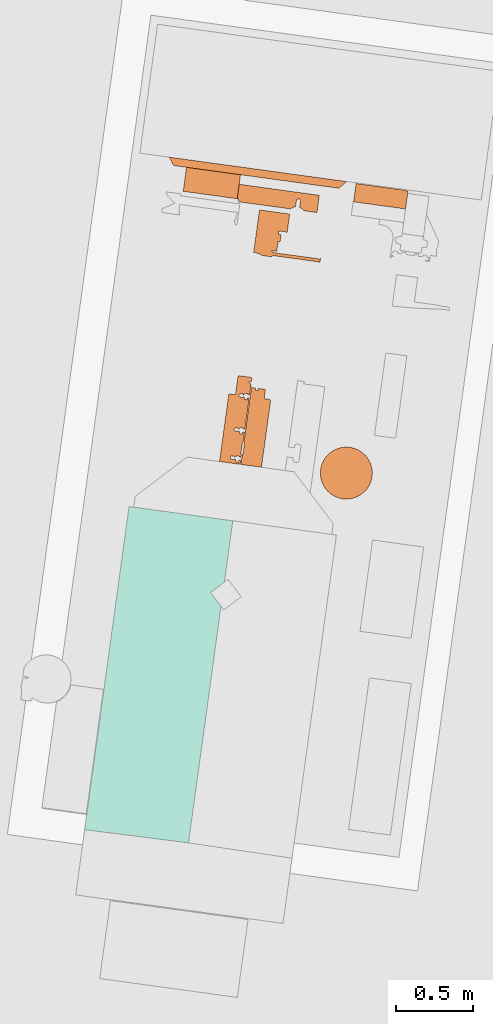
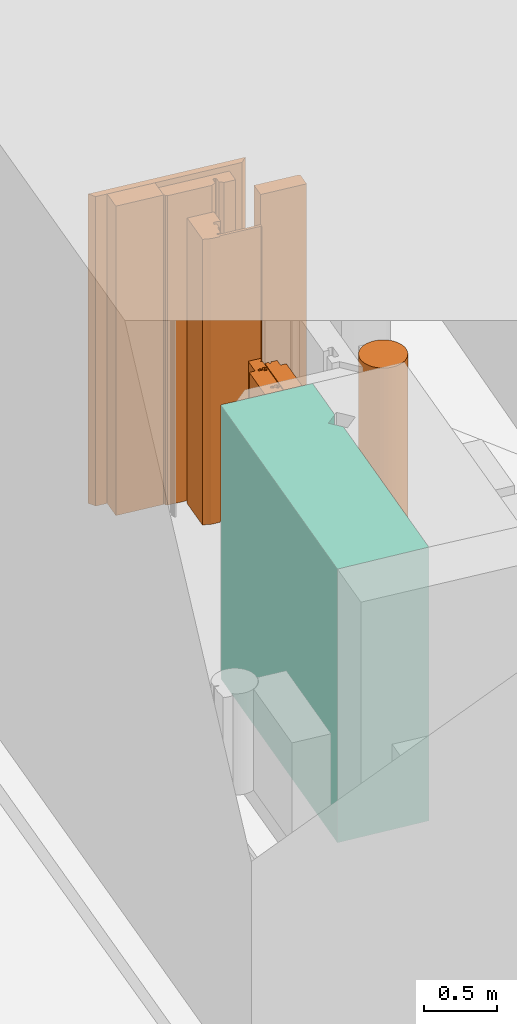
# Not in any storey, part 49 of 75: 8 proxies, plus 1 element that does not belong to this part.
"""IFC4 model written with IfcOpenShell, lengths in metres."""

import ifcopenshell
import ifcopenshell.guid

model = None  # the IFC model being written
_history = None  # IfcOwnerHistory: only IFC2X3 demands one
_inside = {}  # id of a spatial element -> (the spatial element, [elements in it])
_under = {}  # id of a project, library or spatial element -> (it, [spatial elements below it])
_declared = {}  # id of a project -> (the project, [libraries it declares])
_typed = {}  # id of a type object -> (the type object, [elements of that type])
_made_of = {}  # id of a material, layer set ... -> (it, [elements and type objects made of it])


def new_model(schema):
    """Start an empty IFC model of exactly this schema.

    Asked for "IFC4X3", IfcOpenShell would pick the latest addendum, in which some entities
    have other attributes; the version numbers below select the first issue.
    IFC2X3 requires an IfcOwnerHistory on every rooted entity: one is made here for all.
    """
    global model, _history
    if schema == "IFC4X3":
        model = ifcopenshell.file(schema_version=(4, 3, 0, 0))
    else:
        model = ifcopenshell.file(schema=schema)
    _inside.clear()
    _under.clear()
    _declared.clear()
    _typed.clear()
    _made_of.clear()
    _history = None
    if model.schema == "IFC2X3":
        org = make("IfcOrganization", Name="unknown")
        user = make(
            "IfcPersonAndOrganization",
            ThePerson=make("IfcPerson", FamilyName="unknown"),
            TheOrganization=org,
        )
        app = make(
            "IfcApplication",
            ApplicationDeveloper=org,
            Version="unknown",
            ApplicationFullName="unknown",
            ApplicationIdentifier="unknown",
        )
        _history = make(
            "IfcOwnerHistory",
            OwningUser=user,
            OwningApplication=app,
            ChangeAction="ADDED",
            CreationDate=0,
        )
    return model


def make(cls, **values):
    """One entity of the class cls with the attributes given. An attribute that is None is left unset."""
    return model.create_entity(
        cls, **{name: value for name, value in values.items() if value is not None}
    )


def rooted(cls, **values):
    """An entity with a GlobalId (a new one), such as an element, a storey or a relation."""
    return make(cls, GlobalId=ifcopenshell.guid.new(), OwnerHistory=_history, **values)


def si_unit(unit_type, name, prefix=None):
    """IfcSIUnit, for example si_unit("LENGTHUNIT", "METRE", prefix="MILLI")."""
    return make("IfcSIUnit", UnitType=unit_type, Prefix=prefix, Name=name)


def assignment(units):
    """IfcUnitAssignment: the units of a project."""
    return None if units is None else make("IfcUnitAssignment", Units=units)


def point(xyz):
    """IfcCartesianPoint."""
    return None if xyz is None else make("IfcCartesianPoint", Coordinates=xyz)


def direction(xyz):
    """IfcDirection."""
    return None if xyz is None else make("IfcDirection", DirectionRatios=xyz)


def frame(location, z_axis=None, x_axis=None):
    """IfcAxis2Placement3D, a coordinate frame: its origin and axes. An axis left out is left unset."""
    return make(
        "IfcAxis2Placement3D",
        Location=point(location),
        Axis=direction(z_axis),
        RefDirection=direction(x_axis),
    )


def origin_with_axes():
    """The frame at (0, 0, 0) with the z axis (0, 0, 1) and the x axis (1, 0, 0) written out."""
    return frame((0.0, 0.0, 0.0), z_axis=(0.0, 0.0, 1.0), x_axis=(1.0, 0.0, 0.0))


def place(relative_to, where):
    """IfcLocalPlacement: puts the frame where relative to a parent placement (None: the world)."""
    return make(
        "IfcLocalPlacement", PlacementRelTo=relative_to, RelativePlacement=where
    )


def context(
    kind, dimensions, precision=None, world=None, true_north=None, identifier=None
):
    """IfcGeometricRepresentationContext, for example the 3D "Model" context."""
    return make(
        "IfcGeometricRepresentationContext",
        ContextIdentifier=identifier,
        ContextType=kind,
        CoordinateSpaceDimension=dimensions,
        Precision=precision,
        WorldCoordinateSystem=world,
        TrueNorth=true_north,
    )


def subcontext(parent, identifier, kind, view, scale=None):
    """IfcGeometricRepresentationSubContext, for example "Body" below "Model"."""
    return make(
        "IfcGeometricRepresentationSubContext",
        ContextIdentifier=identifier,
        ContextType=kind,
        ParentContext=parent,
        TargetScale=scale,
        TargetView=view,
    )


def project(units=None, contexts=None):
    """IfcProject with its units and contexts."""
    return rooted(
        "IfcProject",
        Name="project",
        RepresentationContexts=contexts,
        UnitsInContext=assignment(units),
    )


def spatial(cls, under=None, at=None, **own):
    """A site, building, storey or space (cls), placed at a placement, below another one or the project."""
    s = rooted(cls, ObjectPlacement=at, **own)
    if under is not None:
        _under.setdefault(under.id(), (under, []))[1].append(s)
    return s


def point_list(points):
    """IfcCartesianPointList2D or 3D."""
    cls = (
        "IfcCartesianPointList2D" if len(points[0]) == 2 else "IfcCartesianPointList3D"
    )
    return make(cls, CoordList=points)


def triangles(points, corners, closed=None, point_numbers=None):
    """IfcTriangulatedFaceSet: each triangle names its three corners, points numbered from 1."""
    return make(
        "IfcTriangulatedFaceSet",
        Coordinates=point_list(points),
        Closed=closed,
        CoordIndex=corners,
        PnIndex=point_numbers,
    )


def shape(context_of_items, identifier, shape_type, items):
    """IfcShapeRepresentation: the items that make up one representation, for example the "Body"."""
    return make(
        "IfcShapeRepresentation",
        ContextOfItems=context_of_items,
        RepresentationIdentifier=identifier,
        RepresentationType=shape_type,
        Items=items,
    )


def made_of(thing, what):
    """Note that an element or type object is made of a material, layer set ...; save() writes the relation."""
    if what is not None:
        _made_of.setdefault(what.id(), (what, []))[1].append(thing)
    return thing


def element(
    cls,
    number,
    at=None,
    inside=None,
    cuts=None,
    type_object=None,
    material=None,
    context=None,
    identifier="Body",
    shape_type=None,
    held_by="IfcProductDefinitionShape",
    body=None,
    shapes=None,
    **own,
):
    """One element of the class cls, such as IfcWall. Its Tag is "e" and its number.

    at: its placement. inside: the storey or other place that contains it. cuts: it is an
    opening in that element (IfcRelVoidsElement). A single representation is given by context,
    identifier, shape_type and body (its items); several are given by shapes. held_by: the class
    of the entity that holds the representations. save() writes the other relations.
    """
    e = rooted(cls, Tag="e%d" % number, ObjectPlacement=at, **own)
    if body is not None:
        shapes = [shape(context, identifier, shape_type, body)]
    if shapes is not None:
        e.Representation = make(held_by, Representations=shapes)
    if inside is not None:
        _inside.setdefault(inside.id(), (inside, []))[1].append(e)
    if cuts is not None:
        rooted(
            "IfcRelVoidsElement", RelatingBuildingElement=cuts, RelatedOpeningElement=e
        )
    if type_object is not None:
        _typed.setdefault(type_object.id(), (type_object, []))[1].append(e)
    return made_of(e, material)


def aggregate(whole, parts):
    """IfcRelAggregates: a whole, such as a stair, and the parts it consists of."""
    return rooted("IfcRelAggregates", RelatingObject=whole, RelatedObjects=parts)


def save(model, path):
    """Write the relations noted so far, then the file.

    IfcRelAggregates (storeys below a building ...), IfcRelContainedInSpatialStructure (elements
    in a storey), IfcRelDefinesByType, IfcRelAssociatesMaterial and IfcRelDeclares: one each for
    every whole, place, type object, material and project.
    """
    for whole, parts in _under.values():
        aggregate(whole, parts)
    for where, things in _inside.values():
        rooted(
            "IfcRelContainedInSpatialStructure",
            RelatedElements=things,
            RelatingStructure=where,
        )
    for kind, things in _typed.values():
        rooted("IfcRelDefinesByType", RelatedObjects=things, RelatingType=kind)
    for what, things in _made_of.values():
        rooted("IfcRelAssociatesMaterial", RelatedObjects=things, RelatingMaterial=what)
    for by, libraries in _declared.values():
        rooted("IfcRelDeclares", RelatingContext=by, RelatedDefinitions=libraries)
    model.write(path)


model = new_model("IFC4")

# Units and contexts
model_context = context("Model", 3, precision=1e-05, world=origin_with_axes(), true_north=direction((0.0, 1.0)))
body_context = subcontext(model_context, "Body", "Model", "MODEL_VIEW")
ifc_project = project(units=[si_unit("AREAUNIT", "SQUARE_METRE"), si_unit("VOLUMEUNIT", "CUBIC_METRE"), si_unit("LENGTHUNIT", "METRE")], contexts=[model_context])

# Site
site_placement = place(None, origin_with_axes())
site = spatial("IfcSite", under=ifc_project, at=site_placement, Name="Parcela industrial Jinhong")

# Compressor, proxies
compressor_placement = place(site_placement, origin_with_axes())
compressor = element("IfcCompressor", 1, at=compressor_placement, inside=site, Name="Compresor de aire AC1001A · Carcasa principal · región CAD 1", ObjectType="Envolvente de equipo", PredefinedType="USERDEFINED", context=body_context, shape_type="Tessellation", body=[
    triangles([(49.52282, 73.229642, 3.95), (48.846977, 73.32256, 3.95), (49.467834, 72.829704, 3.95), (48.846977, 73.32256, 1.65), (49.52282, 73.229642, 1.65), (49.467834, 72.829704, 1.65), (48.557326, 71.215778, 3.95), (49.234108, 71.129696, 3.95), (49.234108, 71.129696, 1.65), (48.557326, 71.215778, 1.65), (49.378698, 72.762115, 3.95), (49.446287, 72.672978, 3.95), (49.446287, 72.672978, 1.65), (49.378698, 72.762115, 1.65)], [[1, 2, 3], [4, 5, 6], [2, 7, 8], [9, 10, 4], [8, 12, 11], [13, 9, 14], [3, 2, 11], [4, 6, 14], [2, 8, 11], [14, 9, 4], [4, 10, 7], [4, 7, 2], [10, 9, 8], [10, 8, 7], [9, 13, 12], [9, 12, 8], [11, 13, 14], [11, 12, 13], [14, 6, 3], [14, 3, 11], [6, 5, 1], [1, 3, 6], [5, 4, 2], [5, 2, 1]], closed=True),
])
proxy_1_placement = place(compressor_placement, origin_with_axes())
proxy_1 = element("IfcBuildingElementProxy", 2, at=proxy_1_placement, Name="Compresor de aire AC1001A · Cuerpo de equipo · región CAD 14", context=body_context, shape_type="Tessellation", body=[
    triangles([(49.638171, 74.1384, 3.55), (49.630651, 74.135093, 3.55), (49.637695, 74.134932, 3.55), (49.630651, 74.135093, 1.65), (49.638171, 74.1384, 1.65), (49.637695, 74.134932, 1.65), (49.648085, 74.159849, 3.55), (49.639086, 74.139182, 3.55), (49.64513, 74.138351, 3.55), (49.648085, 74.159849, 1.65), (49.64513, 74.138351, 1.65), (49.639086, 74.139182, 1.65), (49.644411, 74.164695, 3.55), (49.564265, 74.175714, 3.55), (49.647194, 74.159972, 3.55), (49.564265, 74.175714, 1.65), (49.644411, 74.164695, 1.65), (49.647194, 74.159972, 1.65), (49.557967, 74.173955, 3.55), (49.556843, 74.172393, 3.55), (49.556843, 74.172393, 1.65), (49.557967, 74.173955, 1.65), (49.540267, 74.051828, 3.55), (49.504108, 74.056799, 3.55), (49.498724, 74.055823, 3.55), (49.498724, 74.055823, 1.65), (49.504108, 74.056799, 1.65), (49.540267, 74.051828, 1.65), (49.49671, 74.054384, 3.55), (49.436453, 73.616107, 3.55), (49.436453, 73.616107, 1.65), (49.49671, 74.054384, 1.65), (49.574453, 73.624287, 3.55), (49.565042, 73.625581, 3.55), (49.570789, 73.597638, 3.55), (49.565042, 73.625581, 1.65), (49.574453, 73.624287, 1.65), (49.570789, 73.597638, 1.65), (49.56481, 73.623897, 3.55), (49.561343, 73.624374, 3.55), (49.559681, 73.612287, 3.55), (49.561343, 73.624374, 1.65), (49.56481, 73.623897, 1.65), (49.559681, 73.612287, 1.65), (49.543213, 73.626866, 3.55), (49.539185, 73.629136, 3.55), (49.541552, 73.61478, 3.55), (49.539185, 73.629136, 1.65), (49.543213, 73.626866, 1.65), (49.541552, 73.61478, 1.65), (49.539662, 73.632603, 3.55), (49.533036, 73.633514, 3.55), (49.533036, 73.633514, 1.65), (49.539662, 73.632603, 1.65), (49.522376, 73.628015, 3.55), (49.517687, 73.632092, 3.55), (49.511644, 73.632922, 3.55), (49.511644, 73.632922, 1.65), (49.517687, 73.632092, 1.65), (49.522376, 73.628015, 1.65), (49.522218, 73.652565, 3.55), (49.514137, 73.651052, 3.55), (49.52018, 73.650221, 3.55), (49.514137, 73.651052, 1.65), (49.522218, 73.652565, 1.65), (49.52018, 73.650221, 1.65), (49.541323, 73.64469, 3.55), (49.531729, 73.651258, 3.55), (49.534389, 73.645643, 3.55), (49.531729, 73.651258, 1.65), (49.541323, 73.64469, 1.65), (49.534389, 73.645643, 1.65), (49.547, 73.654407, 3.55), (49.541909, 73.64895, 3.55), (49.546169, 73.648364, 3.55), (49.547, 73.654407, 1.65), (49.546169, 73.648364, 1.65), (49.541909, 73.64895, 1.65), (49.565129, 73.651914, 3.55), (49.564299, 73.645871, 3.55), (49.567766, 73.645395, 3.55), (49.565129, 73.651914, 1.65), (49.567766, 73.645395, 1.65), (49.564299, 73.645871, 1.65), (49.577068, 73.643308, 3.55), (49.567657, 73.644602, 3.55), (49.567657, 73.644602, 1.65), (49.577068, 73.643308, 1.65), (49.579779, 73.663023, 3.55), (49.575519, 73.663608, 3.55), (49.575519, 73.663608, 1.65), (49.579779, 73.663023, 1.65), (49.599665, 73.807662, 3.55), (49.586415, 73.742863, 3.55), (49.590675, 73.742277, 3.55), (49.599665, 73.807662, 1.65), (49.590675, 73.742277, 1.65), (49.586415, 73.742863, 1.65), (49.590253, 73.808956, 3.55), (49.586554, 73.807749, 3.55), (49.586554, 73.807749, 1.65), (49.590253, 73.808956, 1.65), (49.568425, 73.810241, 3.55), (49.564396, 73.812511, 3.55), (49.566763, 73.798155, 3.55), (49.564396, 73.812511, 1.65), (49.568425, 73.810241, 1.65), (49.566763, 73.798155, 1.65), (49.564873, 73.815978, 3.55), (49.558213, 73.816894, 3.55), (49.558213, 73.816894, 1.65), (49.564873, 73.815978, 1.65), (49.547587, 73.81139, 3.55), (49.542899, 73.815467, 3.55), (49.536855, 73.816297, 3.55), (49.536855, 73.816297, 1.65), (49.542899, 73.815467, 1.65), (49.547587, 73.81139, 1.65), (49.547429, 73.83594, 3.55), (49.539348, 73.834427, 3.55), (49.545391, 73.833596, 3.55), (49.539348, 73.834427, 1.65), (49.547429, 73.83594, 1.65), (49.545391, 73.833596, 1.65), (49.566535, 73.828065, 3.55), (49.55694, 73.834633, 3.55), (49.5596, 73.829018, 3.55), (49.55694, 73.834633, 1.65), (49.566535, 73.828065, 1.65), (49.5596, 73.829018, 1.65), (49.572211, 73.837782, 3.55), (49.56712, 73.832325, 3.55), (49.57138, 73.831739, 3.55), (49.572211, 73.837782, 1.65), (49.57138, 73.831739, 1.65), (49.56712, 73.832325, 1.65), (49.590341, 73.835289, 3.55), (49.58951, 73.829246, 3.55), (49.592977, 73.82877, 3.55), (49.590341, 73.835289, 1.65), (49.592977, 73.82877, 1.65), (49.58951, 73.829246, 1.65), (49.60228, 73.826683, 3.55), (49.592868, 73.827977, 3.55), (49.592868, 73.827977, 1.65), (49.60228, 73.826683, 1.65), (49.630324, 74.030664, 3.55), (49.620913, 74.031958, 3.55), (49.620913, 74.031958, 1.65), (49.630324, 74.030664, 1.65), (49.617214, 74.030751, 3.55), (49.615552, 74.018665, 3.55), (49.615552, 74.018665, 1.65), (49.617214, 74.030751, 1.65), (49.599084, 74.033243, 3.55), (49.595056, 74.035513, 3.55), (49.597423, 74.021157, 3.55), (49.595056, 74.035513, 1.65), (49.599084, 74.033243, 1.65), (49.597423, 74.021157, 1.65), (49.59541, 74.038089, 3.55), (49.58875, 74.039005, 3.55), (49.58875, 74.039005, 1.65), (49.59541, 74.038089, 1.65), (49.574242, 74.037567, 3.55), (49.568199, 74.038398, 3.55), (49.574888, 74.035661, 3.55), (49.568199, 74.038398, 1.65), (49.574242, 74.037567, 1.65), (49.574888, 74.035661, 1.65), (49.568308, 74.039191, 3.55), (49.565732, 74.039545, 3.55), (49.565732, 74.039545, 1.65), (49.568308, 74.039191, 1.65), (49.576966, 74.057381, 3.55), (49.569885, 74.056538, 3.55), (49.576843, 74.056489, 3.55), (49.569885, 74.056538, 1.65), (49.576966, 74.057381, 1.65), (49.576843, 74.056489, 1.65), (49.597072, 74.050175, 3.55), (49.587477, 74.056743, 3.55), (49.590137, 74.051129, 3.55), (49.587477, 74.056743, 1.65), (49.597072, 74.050175, 1.65), (49.590137, 74.051129, 1.65), (49.602871, 74.060784, 3.55), (49.59778, 74.055327, 3.55), (49.60204, 74.054741, 3.55), (49.602871, 74.060784, 1.65), (49.60204, 74.054741, 1.65), (49.59778, 74.055327, 1.65), (49.621, 74.058292, 3.55), (49.620169, 74.052249, 3.55), (49.623637, 74.051772, 3.55), (49.621, 74.058292, 1.65), (49.623637, 74.051772, 1.65), (49.620169, 74.052249, 1.65), (49.632817, 74.048794, 3.55), (49.623405, 74.050088, 3.55), (49.623405, 74.050088, 1.65), (49.632817, 74.048794, 1.65), (49.639804, 74.099616, 3.55), (49.633761, 74.100447, 3.55), (49.633761, 74.100447, 1.65), (49.639804, 74.099616, 1.65), (49.643345, 74.125373, 3.55), (49.63387, 74.101239, 3.55), (49.639913, 74.100408, 3.55), (49.643345, 74.125373, 1.65), (49.639913, 74.100408, 1.65), (49.63387, 74.101239, 1.65), (49.642454, 74.125496, 3.55), (49.642099, 74.12292, 3.55), (49.642099, 74.12292, 1.65), (49.642454, 74.125496, 1.65), (49.636632, 74.127205, 3.55), (49.634056, 74.127559, 3.55), (49.636278, 74.124629, 3.55), (49.634056, 74.127559, 1.65), (49.636632, 74.127205, 1.65), (49.636278, 74.124629, 1.65), (49.578124, 74.033501, 3.55), (49.578124, 74.033501, 1.65), (49.581679, 74.059357, 3.55), (49.581679, 74.059357, 1.65), (49.585047, 74.058894, 3.55), (49.585047, 74.058894, 1.65), (49.636948, 74.123628, 3.55), (49.636948, 74.123628, 1.65), (49.53158, 73.63109, 3.55), (49.53158, 73.63109, 1.65), (49.527601, 73.653541, 3.55), (49.527601, 73.653541, 1.65), (49.556792, 73.814465, 3.55), (49.556792, 73.814465, 1.65), (49.552813, 73.836916, 3.55), (49.552813, 73.836916, 1.65), (49.587329, 74.036576, 3.55), (49.587329, 74.036576, 1.65), (49.630821, 74.12972, 3.55), (49.630821, 74.12972, 1.65), (49.52865, 73.628868, 3.55), (49.52865, 73.628868, 1.65), (49.584893, 73.795662, 3.55), (49.584893, 73.795662, 1.65), (49.553862, 73.812243, 3.55), (49.553862, 73.812243, 1.65), (49.584399, 74.034354, 3.55), (49.584399, 74.034354, 1.65), (49.630051, 74.130734, 3.55), (49.630051, 74.130734, 1.65), (49.524951, 73.627661, 3.55), (49.524951, 73.627661, 1.65), (49.550163, 73.811036, 3.55), (49.550163, 73.811036, 1.65), (49.5807, 74.033146, 3.55), (49.5807, 74.033146, 1.65), (49.534635, 73.83245, 3.55), (49.534635, 73.83245, 1.65), (49.565172, 74.054561, 3.55), (49.565172, 74.054561, 1.65), (49.509983, 73.634059, 3.55), (49.509983, 73.634059, 1.65), (49.509424, 73.649075, 3.55), (49.509424, 73.649075, 1.65), (49.507762, 73.636989, 3.55), (49.507762, 73.636989, 1.65), (49.506909, 73.643264, 3.55), (49.506909, 73.643264, 1.65), (49.53212, 73.826639, 3.55), (49.53212, 73.826639, 1.65), (49.562657, 74.048749, 3.55), (49.562657, 74.048749, 1.65), (49.56351, 74.042475, 3.55), (49.56351, 74.042475, 1.65), (49.532864, 73.819572, 3.55), (49.532864, 73.819572, 1.65)], [[1, 2, 3], [4, 5, 6], [7, 8, 9], [10, 11, 12], [13, 14, 15], [16, 17, 18], [14, 19, 20], [21, 22, 16], [23, 24, 25], [26, 27, 28], [25, 29, 30], [31, 32, 26], [33, 34, 35], [36, 37, 38], [39, 40, 41], [42, 43, 44], [45, 46, 47], [48, 49, 50], [46, 51, 52], [53, 54, 48], [55, 56, 57], [58, 59, 60], [61, 62, 63], [64, 65, 66], [67, 68, 69], [70, 71, 72], [73, 74, 75], [76, 77, 78], [79, 80, 81], [82, 83, 84], [86, 85, 81], [87, 83, 88], [85, 89, 90], [91, 92, 88], [93, 94, 95], [96, 97, 98], [93, 99, 100], [101, 102, 96], [103, 104, 105], [106, 107, 108], [104, 109, 110], [111, 112, 106], [113, 114, 115], [116, 117, 118], [119, 120, 121], [122, 123, 124], [125, 126, 127], [128, 129, 130], [131, 132, 133], [134, 135, 136], [137, 138, 139], [140, 141, 142], [144, 143, 139], [145, 141, 146], [143, 147, 148], [149, 150, 146], [148, 151, 152], [153, 154, 149], [155, 156, 157], [158, 159, 160], [156, 161, 162], [163, 164, 158], [165, 166, 167], [168, 169, 170], [166, 171, 172], [173, 174, 168], [175, 176, 177], [178, 179, 180], [181, 182, 183], [184, 185, 186], [187, 188, 189], [190, 191, 192], [193, 194, 195], [196, 197, 198], [200, 199, 195], [201, 197, 202], [199, 203, 204], [205, 206, 202], [207, 208, 209], [210, 211, 212], [207, 213, 214], [215, 216, 210], [217, 218, 219], [220, 221, 222], [8, 2, 1], [5, 4, 12], [8, 7, 15], [12, 18, 10], [15, 14, 20], [21, 16, 18], [23, 25, 30], [31, 26, 28], [39, 35, 34], [43, 36, 38], [47, 46, 52], [50, 53, 48], [74, 68, 67], [71, 70, 78], [81, 85, 79], [83, 82, 88], [94, 93, 100], [98, 101, 96], [105, 104, 110], [108, 111, 106], [132, 126, 125], [129, 128, 136], [139, 143, 137], [141, 140, 146], [143, 148, 152], [153, 149, 146], [157, 156, 162], [160, 163, 158], [167, 166, 223], [170, 224, 168], [225, 176, 175], [179, 178, 226], [182, 181, 227], [228, 185, 184], [195, 199, 193], [197, 196, 202], [214, 208, 207], [215, 210, 212], [219, 218, 229], [222, 230, 220], [2, 8, 15], [18, 12, 4], [15, 20, 23], [28, 21, 18], [41, 35, 39], [38, 44, 43], [231, 47, 52], [50, 232, 53], [74, 233, 68], [70, 234, 78], [79, 85, 90], [91, 88, 82], [94, 100, 90], [98, 91, 101], [235, 105, 110], [108, 236, 111], [132, 237, 126], [128, 238, 136], [137, 143, 152], [153, 146, 140], [239, 157, 162], [160, 240, 163], [172, 223, 166], [168, 224, 173], [188, 227, 181], [185, 228, 192], [193, 199, 204], [205, 202, 196], [208, 214, 229], [230, 215, 212], [218, 241, 229], [230, 242, 220], [2, 15, 23], [28, 18, 4], [35, 41, 30], [38, 31, 44], [47, 231, 243], [244, 232, 50], [74, 73, 233], [78, 234, 76], [79, 90, 73], [82, 76, 91], [90, 100, 245], [246, 101, 91], [105, 235, 247], [248, 236, 108], [132, 131, 237], [136, 238, 134], [131, 137, 152], [153, 140, 134], [157, 239, 249], [250, 240, 160], [188, 187, 227], [192, 228, 190], [187, 193, 204], [205, 196, 190], [208, 229, 241], [242, 230, 212], [251, 2, 23], [28, 4, 252], [41, 47, 30], [31, 50, 44], [47, 243, 253], [254, 244, 50], [90, 233, 73], [76, 234, 91], [90, 245, 105], [108, 246, 91], [105, 247, 255], [256, 248, 108], [237, 131, 152], [134, 238, 153], [157, 249, 257], [258, 250, 160], [227, 187, 225], [226, 190, 228], [204, 208, 187], [205, 190, 212], [241, 251, 208], [242, 212, 252], [47, 253, 30], [31, 254, 50], [90, 61, 233], [234, 65, 91], [90, 105, 255], [256, 108, 91], [119, 237, 152], [238, 123, 153], [157, 257, 223], [224, 258, 160], [208, 225, 187], [190, 226, 212], [208, 251, 23], [212, 28, 252], [253, 55, 30], [31, 60, 254], [90, 62, 61], [65, 64, 91], [90, 255, 113], [118, 256, 91], [152, 120, 119], [123, 122, 153], [172, 157, 223], [224, 160, 173], [208, 176, 225], [226, 178, 212], [55, 57, 30], [31, 58, 60], [62, 90, 113], [118, 91, 64], [259, 120, 152], [122, 260, 153], [208, 261, 176], [178, 262, 212], [57, 263, 30], [31, 264, 58], [265, 62, 113], [64, 266, 118], [259, 152, 157], [160, 153, 260], [261, 208, 23], [28, 212, 262], [263, 267, 30], [264, 31, 268], [265, 113, 269], [266, 270, 118], [259, 157, 271], [260, 272, 160], [273, 261, 23], [28, 262, 274], [267, 269, 30], [268, 31, 270], [269, 113, 115], [116, 118, 270], [271, 157, 172], [173, 160, 272], [275, 273, 23], [28, 274, 276], [23, 30, 269], [270, 31, 28], [269, 115, 277], [270, 278, 116], [271, 172, 275], [276, 173, 272], [271, 269, 277], [278, 270, 272], [271, 275, 23], [272, 28, 276], [23, 269, 271], [272, 270, 28], [6, 5, 1], [1, 3, 6], [8, 5, 12], [8, 1, 5], [12, 11, 9], [12, 9, 8], [11, 10, 7], [7, 9, 11], [15, 10, 18], [15, 7, 10], [18, 17, 13], [13, 15, 18], [17, 16, 14], [17, 14, 13], [19, 16, 22], [19, 14, 16], [22, 21, 20], [22, 20, 19], [21, 28, 23], [21, 23, 20], [28, 27, 24], [28, 24, 23], [27, 26, 25], [27, 25, 24], [29, 26, 32], [29, 25, 26], [32, 31, 30], [32, 30, 29], [35, 31, 38], [35, 30, 31], [38, 37, 33], [33, 35, 38], [37, 36, 34], [37, 34, 33], [36, 43, 39], [36, 39, 34], [43, 42, 40], [43, 40, 39], [41, 42, 44], [42, 41, 40], [47, 44, 50], [47, 41, 44], [50, 49, 45], [45, 47, 50], [49, 48, 46], [49, 46, 45], [48, 54, 51], [48, 51, 46], [54, 53, 52], [54, 52, 51], [53, 232, 231], [53, 231, 52], [243, 232, 244], [243, 231, 232], [253, 244, 254], [253, 243, 244], [254, 60, 55], [254, 55, 253], [60, 59, 56], [60, 56, 55], [59, 58, 57], [59, 57, 56], [263, 58, 264], [263, 57, 58], [264, 268, 267], [264, 267, 263], [268, 270, 269], [268, 269, 267], [270, 266, 265], [270, 265, 269], [266, 64, 62], [266, 62, 265], [63, 64, 66], [64, 63, 62], [66, 65, 61], [61, 63, 66], [233, 65, 234], [233, 61, 65], [234, 70, 68], [234, 68, 233], [69, 70, 72], [70, 69, 68], [72, 71, 67], [67, 69, 72], [71, 78, 74], [71, 74, 67], [78, 77, 75], [78, 75, 74], [77, 76, 73], [73, 75, 77], [79, 76, 82], [79, 73, 76], [80, 82, 84], [82, 80, 79], [84, 83, 81], [84, 81, 80], [83, 87, 86], [83, 86, 81], [85, 87, 88], [85, 86, 87], [88, 92, 89], [88, 89, 85], [92, 91, 90], [92, 90, 89], [91, 98, 94], [91, 94, 90], [98, 97, 95], [98, 95, 94], [97, 96, 93], [93, 95, 97], [99, 96, 102], [99, 93, 96], [102, 101, 100], [102, 100, 99], [101, 246, 245], [101, 245, 100], [246, 108, 105], [246, 105, 245], [108, 107, 103], [103, 105, 108], [107, 106, 104], [107, 104, 103], [106, 112, 109], [106, 109, 104], [112, 111, 110], [112, 110, 109], [111, 236, 235], [111, 235, 110], [247, 236, 248], [247, 235, 236], [255, 248, 256], [255, 247, 248], [256, 118, 113], [256, 113, 255], [118, 117, 114], [118, 114, 113], [117, 116, 115], [117, 115, 114], [277, 116, 278], [277, 115, 116], [278, 272, 271], [278, 271, 277], [272, 260, 259], [272, 259, 271], [260, 122, 120], [260, 120, 259], [121, 122, 124], [122, 121, 120], [124, 123, 119], [119, 121, 124], [237, 123, 238], [237, 119, 123], [238, 128, 126], [238, 126, 237], [127, 128, 130], [128, 127, 126], [130, 129, 125], [125, 127, 130], [129, 136, 132], [129, 132, 125], [136, 135, 133], [136, 133, 132], [135, 134, 131], [131, 133, 135], [137, 134, 140], [137, 131, 134], [138, 140, 142], [140, 138, 137], [142, 141, 139], [142, 139, 138], [141, 145, 144], [141, 144, 139], [143, 145, 146], [143, 144, 145], [146, 150, 147], [146, 147, 143], [150, 149, 148], [150, 148, 147], [151, 149, 154], [151, 148, 149], [154, 153, 152], [154, 152, 151], [157, 153, 160], [157, 152, 153], [160, 159, 155], [155, 157, 160], [159, 158, 156], [159, 156, 155], [158, 164, 161], [158, 161, 156], [164, 163, 162], [164, 162, 161], [163, 240, 239], [163, 239, 162], [249, 240, 250], [249, 239, 240], [257, 250, 258], [257, 249, 250], [258, 224, 223], [258, 223, 257], [224, 170, 167], [224, 167, 223], [170, 169, 165], [165, 167, 170], [169, 168, 166], [169, 166, 165], [168, 174, 171], [168, 171, 166], [174, 173, 172], [174, 172, 171], [173, 276, 275], [173, 275, 172], [276, 274, 273], [276, 273, 275], [274, 262, 261], [274, 261, 273], [262, 178, 176], [262, 176, 261], [177, 178, 180], [178, 177, 176], [180, 179, 175], [175, 177, 180], [225, 179, 226], [225, 175, 179], [227, 226, 228], [227, 225, 226], [228, 184, 182], [228, 182, 227], [183, 184, 186], [184, 183, 182], [186, 185, 181], [181, 183, 186], [185, 192, 188], [185, 188, 181], [192, 191, 189], [192, 189, 188], [191, 190, 187], [187, 189, 191], [193, 190, 196], [193, 187, 190], [194, 196, 198], [196, 194, 193], [198, 197, 195], [198, 195, 194], [197, 201, 200], [197, 200, 195], [199, 201, 202], [199, 200, 201], [202, 206, 203], [202, 203, 199], [206, 205, 204], [206, 204, 203], [205, 212, 208], [205, 208, 204], [212, 211, 209], [212, 209, 208], [211, 210, 207], [207, 209, 211], [213, 210, 216], [213, 207, 210], [216, 215, 214], [216, 214, 213], [229, 215, 230], [229, 214, 215], [230, 222, 219], [230, 219, 229], [222, 221, 217], [217, 219, 222], [221, 220, 218], [221, 218, 217], [241, 220, 242], [241, 218, 220], [242, 252, 251], [242, 251, 241], [252, 4, 2], [252, 2, 251], [3, 4, 6], [4, 3, 2]], closed=True),
])
proxy_2_placement = place(compressor_placement, origin_with_axes())
proxy_2 = element("IfcBuildingElementProxy", 3, at=proxy_2_placement, Name="Compresor de aire AC1001A · Cuerpo de equipo · región CAD 15", context=body_context, shape_type="Tessellation", body=[
    triangles([(49.690626, 74.092628, 3.55), (49.687696, 74.090407, 3.55), (49.686089, 74.078717, 3.55), (49.687696, 74.090407, 1.65), (49.690626, 74.092628, 1.65), (49.686089, 74.078717, 1.65), (49.672496, 74.095121, 3.55), (49.671427, 74.080733, 3.55), (49.673034, 74.092423, 3.55), (49.671427, 74.080733, 1.65), (49.672496, 74.095121, 1.65), (49.673034, 74.092423, 1.65), (49.644955, 74.098907, 3.55), (49.595827, 73.741569, 3.55), (49.595827, 73.741569, 1.65), (49.644955, 74.098907, 1.65), (49.589289, 73.661715, 3.55), (49.58493, 73.662314, 3.55), (49.575941, 73.596929, 3.55), (49.58493, 73.662314, 1.65), (49.589289, 73.661715, 1.65), (49.575941, 73.596929, 1.65), (49.770534, 74.016737, 3.55), (49.710277, 73.57846, 3.55), (49.710277, 73.57846, 1.65), (49.770534, 74.016737, 1.65), (49.764161, 74.021046, 3.55), (49.728001, 74.026017, 3.55), (49.728001, 74.026017, 1.65), (49.764161, 74.021046, 1.65), (49.736296, 74.086349, 3.55), (49.736296, 74.086349, 1.65), (49.600186, 73.74097, 3.55), (49.600186, 73.74097, 1.65)], [[1, 2, 3], [4, 5, 6], [7, 8, 9], [10, 11, 12], [7, 13, 14], [15, 16, 11], [17, 18, 19], [20, 21, 22], [19, 24, 23], [25, 22, 26], [23, 27, 28], [29, 30, 26], [28, 31, 1], [29, 5, 32], [8, 7, 14], [10, 15, 11], [17, 19, 23], [21, 26, 22], [3, 28, 1], [29, 6, 5], [3, 8, 14], [15, 10, 6], [33, 17, 23], [26, 21, 34], [14, 28, 3], [6, 29, 15], [14, 33, 23], [34, 15, 26], [23, 28, 14], [15, 29, 26], [8, 6, 10], [8, 3, 6], [9, 10, 12], [10, 9, 8], [12, 11, 7], [7, 9, 12], [13, 11, 16], [13, 7, 11], [16, 15, 14], [16, 14, 13], [33, 15, 34], [33, 14, 15], [34, 21, 17], [34, 17, 33], [21, 20, 18], [21, 18, 17], [19, 20, 22], [20, 19, 18], [24, 22, 25], [24, 19, 22], [23, 25, 26], [23, 24, 25], [27, 26, 30], [27, 23, 26], [30, 29, 28], [30, 28, 27], [29, 32, 31], [29, 31, 28], [32, 5, 1], [32, 1, 31], [5, 4, 2], [5, 2, 1], [3, 4, 6], [4, 3, 2]], closed=True),
])
proxy_3_placement = place(compressor_placement, origin_with_axes())
proxy_3 = element("IfcBuildingElementProxy", 4, at=proxy_3_placement, Name="Compresor de aire AC1001A · Cuerpo de equipo · región CAD 17", context=body_context, shape_type="Tessellation", body=[
    triangles([(49.560485, 75.328067, 4.25), (49.559313, 75.319548, 4.25), (49.570885, 75.308266, 4.25), (49.560485, 75.328067, 1.65), (49.570885, 75.308266, 1.65), (49.559313, 75.319548, 1.65), (49.908458, 75.26882, 4.25), (49.898899, 75.263169, 4.25), (49.898899, 75.263169, 1.65), (49.908458, 75.26882, 1.65), (49.937834, 75.316564, 4.25), (49.918799, 75.273556, 4.25), (49.932509, 75.277828, 4.25), (49.937834, 75.316564, 1.65), (49.932509, 75.277828, 1.65), (49.918799, 75.273556, 1.65), (49.964583, 75.312886, 4.25), (49.959257, 75.274151, 4.25), (49.970414, 75.266459, 4.25), (49.964583, 75.312886, 1.65), (49.970414, 75.266459, 1.65), (49.959257, 75.274151, 1.65), (50.071971, 75.239374, 4.25), (49.979093, 75.259109, 4.25), (49.986772, 75.251088, 4.25), (49.979093, 75.259109, 1.65), (50.071971, 75.239374, 1.65), (49.986772, 75.251088, 1.65), (50.087471, 75.352114, 4.25), (49.564887, 75.423962, 4.25), (49.551866, 75.329252, 4.25), (49.564887, 75.423962, 1.65), (50.087471, 75.352114, 1.65), (49.551866, 75.329252, 1.65), (49.96363, 75.319175, 4.25), (49.96363, 75.319175, 1.65), (49.939557, 75.322484, 4.25), (49.939557, 75.322484, 1.65), (49.942609, 75.325598, 4.25), (49.942609, 75.325598, 1.65), (49.961531, 75.322996, 4.25), (49.961531, 75.322996, 1.65), (49.947346, 75.328479, 4.25), (49.947346, 75.328479, 1.65), (49.957748, 75.327049, 4.25), (49.957748, 75.327049, 1.65), (49.952607, 75.328564, 4.25), (49.952607, 75.328564, 1.65)], [[1, 2, 3], [4, 5, 6], [8, 7, 3], [9, 5, 10], [11, 12, 13], [14, 15, 16], [17, 18, 19], [20, 21, 22], [23, 24, 25], [26, 27, 28], [29, 30, 31], [32, 33, 34], [3, 7, 1], [5, 4, 10], [7, 12, 11], [16, 10, 14], [17, 19, 24], [20, 26, 21], [29, 24, 23], [27, 26, 33], [29, 31, 1], [34, 33, 4], [7, 11, 1], [10, 4, 14], [24, 35, 17], [20, 36, 26], [11, 37, 1], [14, 4, 38], [29, 35, 24], [26, 36, 33], [37, 39, 1], [38, 4, 40], [35, 29, 41], [36, 42, 33], [39, 43, 1], [40, 4, 44], [41, 29, 45], [42, 46, 33], [29, 1, 43], [44, 4, 33], [45, 29, 47], [46, 48, 33], [29, 43, 47], [48, 44, 33], [8, 5, 9], [8, 3, 5], [7, 9, 10], [7, 8, 9], [12, 10, 16], [12, 7, 10], [16, 15, 13], [16, 13, 12], [15, 14, 11], [11, 13, 15], [14, 38, 37], [14, 37, 11], [38, 40, 39], [38, 39, 37], [43, 40, 44], [43, 39, 40], [47, 44, 48], [47, 43, 44], [48, 46, 45], [48, 45, 47], [46, 42, 41], [46, 41, 45], [42, 36, 35], [42, 35, 41], [36, 20, 17], [36, 17, 35], [18, 20, 22], [20, 18, 17], [22, 21, 19], [22, 19, 18], [24, 21, 26], [24, 19, 21], [25, 26, 28], [26, 25, 24], [28, 27, 23], [23, 25, 28], [27, 33, 29], [27, 29, 23], [33, 32, 30], [33, 30, 29], [31, 32, 34], [32, 31, 30], [34, 4, 1], [34, 1, 31], [2, 4, 6], [4, 2, 1], [6, 5, 3], [6, 3, 2]], closed=True),
])
proxy_4_placement = place(compressor_placement, origin_with_axes())
proxy_4 = element("IfcBuildingElementProxy", 5, at=proxy_4_placement, Name="Compresor de aire AC1001A · Cuerpo de equipo · región CAD 18", context=body_context, shape_type="Tessellation", body=[
    triangles([(50.265631, 75.441683, 4.25), (49.108417, 75.600782, 4.25), (50.21478, 75.3978, 4.25), (49.108417, 75.600782, 1.65), (50.265631, 75.441683, 1.65), (50.21478, 75.3978, 1.65), (49.136919, 75.54599, 4.25), (49.136919, 75.54599, 1.65)], [[1, 2, 3], [4, 5, 6], [3, 2, 7], [8, 4, 6], [4, 8, 7], [4, 7, 2], [8, 6, 3], [8, 3, 7], [6, 5, 1], [1, 3, 6], [5, 4, 2], [5, 2, 1]], closed=True),
])
proxy_5_placement = place(compressor_placement, origin_with_axes())
proxy_5 = element("IfcBuildingElementProxy", 6, at=proxy_5_placement, Name="Compresor de aire AC1001A · Cuerpo de equipo · región CAD 19", context=body_context, shape_type="Tessellation", body=[
    triangles([(49.573413, 75.485978, 4.25), (49.221226, 75.534399, 4.25), (49.551866, 75.329252, 4.25), (49.221226, 75.534399, 1.65), (49.573413, 75.485978, 1.65), (49.551866, 75.329252, 1.65), (49.199679, 75.377673, 4.25), (49.199679, 75.377673, 1.65)], [[1, 2, 3], [4, 5, 6], [3, 2, 7], [8, 4, 6], [4, 8, 7], [4, 7, 2], [8, 6, 3], [8, 3, 7], [6, 5, 1], [1, 3, 6], [5, 4, 2], [5, 2, 1]], closed=True),
])
proxy_6_placement = place(compressor_placement, origin_with_axes())
proxy_6 = element("IfcBuildingElementProxy", 7, at=proxy_6_placement, Name="Compresor de aire AC1001A · Cuerpo de equipo · región CAD 20", context=body_context, shape_type="Tessellation", body=[
    triangles([(49.894282, 75.229585, 4.05), (49.697136, 75.25669, 4.05), (49.659122, 74.980192, 4.05), (49.697136, 75.25669, 1.65), (49.894282, 75.229585, 1.65), (49.659122, 74.980192, 1.65), (49.779615, 74.950603, 4.05), (49.699849, 74.967324, 4.05), (49.714976, 74.95949, 4.05), (49.699849, 74.967324, 1.65), (49.779615, 74.950603, 1.65), (49.714976, 74.95949, 1.65), (50.088208, 74.916958, 4.05), (50.087146, 74.909231, 4.05), (50.088765, 74.909008, 4.05), (50.088208, 74.916958, 1.65), (50.088765, 74.909008, 1.65), (50.087146, 74.909231, 1.65), (50.0971, 74.938548, 4.05), (50.091164, 74.938456, 4.05), (50.091164, 74.938456, 1.65), (50.0971, 74.938548, 1.65), (50.090932, 74.936772, 4.05), (49.852376, 74.96957, 4.05), (49.847102, 74.969386, 4.05), (49.847102, 74.969386, 1.65), (49.852376, 74.96957, 1.65), (50.090932, 74.936772, 1.65), (49.832562, 74.972294, 4.05), (49.783524, 74.979036, 4.05), (49.833332, 74.97128, 4.05), (49.783524, 74.979036, 1.65), (49.832562, 74.972294, 1.65), (49.833332, 74.97128, 1.65), (49.783755, 74.98072, 4.05), (49.78118, 74.981074, 4.05), (49.78118, 74.981074, 1.65), (49.783755, 74.98072, 1.65), (49.781302, 74.981966, 4.05), (49.777835, 74.982443, 4.05), (49.777835, 74.982443, 1.65), (49.781302, 74.981966, 1.65), (49.809014, 74.986029, 4.05), (49.806438, 74.986383, 4.05), (49.806095, 74.983886, 4.05), (49.806438, 74.986383, 1.65), (49.809014, 74.986029, 1.65), (49.806095, 74.983886, 1.65), (49.838152, 75.095178, 4.05), (49.819678, 75.050377, 4.05), (49.831764, 75.048715, 4.05), (49.838152, 75.095178, 1.65), (49.831764, 75.048715, 1.65), (49.819678, 75.050377, 1.65), (49.834295, 75.118521, 4.05), (49.822746, 75.117484, 4.05), (49.833941, 75.115945, 4.05), (49.822746, 75.117484, 1.65), (49.834295, 75.118521, 1.65), (49.833941, 75.115945, 1.65), (49.877036, 75.11002, 4.05), (49.86352, 75.114503, 4.05), (49.863166, 75.111927, 4.05), (49.86352, 75.114503, 1.65), (49.877036, 75.11002, 1.65), (49.863166, 75.111927, 1.65), (49.87739, 75.112596, 4.05), (49.878182, 75.112487, 4.05), (49.878182, 75.112487, 1.65), (49.87739, 75.112596, 1.65), (49.673125, 74.977054, 4.05), (49.673125, 74.977054, 1.65), (49.686668, 74.97277, 4.05), (49.686668, 74.97277, 1.65), (49.804876, 74.987507, 4.05), (49.804876, 74.987507, 1.65), (49.820022, 75.09767, 4.05), (49.820022, 75.09767, 1.65), (49.7808, 74.959222, 4.05), (49.7808, 74.959222, 1.65), (49.781595, 74.990707, 4.05), (49.781595, 74.990707, 1.65), (49.778897, 74.99017, 4.05), (49.778897, 74.99017, 1.65)], [[1, 2, 3], [4, 5, 6], [7, 8, 9], [10, 11, 12], [13, 14, 15], [16, 17, 18], [15, 19, 20], [21, 22, 17], [23, 24, 25], [26, 27, 28], [29, 30, 31], [32, 33, 34], [30, 35, 36], [37, 38, 32], [36, 39, 40], [41, 42, 37], [43, 44, 45], [46, 47, 48], [49, 50, 51], [52, 53, 54], [55, 56, 57], [58, 59, 60], [61, 62, 63], [64, 65, 66], [67, 68, 1], [5, 69, 70], [1, 3, 71], [5, 72, 6], [8, 7, 73], [74, 11, 10], [15, 20, 23], [28, 21, 17], [36, 40, 30], [37, 32, 41], [44, 43, 75], [76, 47, 46], [50, 49, 77], [54, 78, 52], [67, 62, 61], [65, 64, 70], [1, 71, 73], [74, 72, 5], [7, 79, 73], [74, 80, 11], [13, 15, 23], [16, 28, 17], [75, 43, 50], [47, 76, 54], [62, 67, 1], [5, 70, 64], [79, 13, 73], [74, 16, 80], [13, 23, 25], [26, 28, 16], [81, 75, 50], [54, 76, 82], [55, 62, 1], [5, 64, 59], [13, 25, 73], [74, 26, 16], [83, 81, 50], [54, 82, 84], [1, 56, 55], [59, 58, 5], [25, 31, 73], [74, 34, 26], [83, 50, 77], [54, 84, 78], [56, 1, 73], [58, 74, 5], [31, 30, 73], [74, 32, 34], [77, 56, 83], [78, 84, 58], [30, 40, 73], [74, 41, 32], [73, 83, 56], [58, 84, 74], [40, 83, 73], [74, 84, 41], [71, 6, 72], [71, 3, 6], [73, 72, 74], [73, 71, 72], [74, 10, 8], [74, 8, 73], [9, 10, 12], [10, 9, 8], [12, 11, 7], [7, 9, 12], [11, 80, 79], [11, 79, 7], [80, 16, 13], [80, 13, 79], [14, 16, 18], [16, 14, 13], [18, 17, 15], [18, 15, 14], [17, 22, 19], [17, 19, 15], [22, 21, 20], [22, 20, 19], [21, 28, 23], [21, 23, 20], [28, 27, 24], [28, 24, 23], [27, 26, 25], [27, 25, 24], [31, 26, 34], [31, 25, 26], [34, 33, 29], [29, 31, 34], [33, 32, 30], [33, 30, 29], [32, 38, 35], [32, 35, 30], [38, 37, 36], [38, 36, 35], [37, 42, 39], [37, 39, 36], [42, 41, 40], [42, 40, 39], [41, 84, 83], [41, 83, 40], [84, 82, 81], [84, 81, 83], [82, 76, 75], [82, 75, 81], [76, 46, 44], [76, 44, 75], [45, 46, 48], [46, 45, 44], [48, 47, 43], [43, 45, 48], [47, 54, 50], [47, 50, 43], [54, 53, 51], [54, 51, 50], [53, 52, 49], [49, 51, 53], [77, 52, 78], [77, 49, 52], [78, 58, 56], [78, 56, 77], [57, 58, 60], [58, 57, 56], [60, 59, 55], [55, 57, 60], [62, 59, 64], [62, 55, 59], [63, 64, 66], [64, 63, 62], [66, 65, 61], [61, 63, 66], [65, 70, 67], [65, 67, 61], [70, 69, 68], [70, 68, 67], [69, 5, 1], [69, 1, 68], [5, 4, 2], [5, 2, 1], [3, 4, 6], [4, 3, 2]], closed=True),
])
proxy_7_placement = place(compressor_placement, origin_with_axes())
proxy_7 = element("IfcBuildingElementProxy", 8, at=proxy_7_placement, Name="Compresor de aire AC1001A · Cuerpo de equipo · región CAD 24", context=body_context, shape_type="Tessellation", body=[
    triangles([(50.643196, 75.385432, 4.0), (50.326963, 75.42891, 4.0), (50.310509, 75.309236, 4.0), (50.326963, 75.42891, 1.65), (50.643196, 75.385432, 1.65), (50.310509, 75.309236, 1.65), (50.665794, 75.378793, 4.0), (50.649818, 75.262586, 4.0), (50.649818, 75.262586, 1.65), (50.665794, 75.378793, 1.65), (50.6546, 75.380332, 4.0), (50.6546, 75.380332, 1.65)], [[1, 2, 3], [4, 5, 6], [8, 7, 3], [9, 6, 10], [11, 1, 3], [6, 5, 12], [7, 11, 3], [6, 12, 10], [8, 6, 9], [8, 3, 6], [7, 9, 10], [7, 8, 9], [11, 10, 12], [11, 7, 10], [12, 5, 1], [12, 1, 11], [5, 4, 2], [5, 2, 1], [3, 4, 6], [4, 3, 2]], closed=True),
])
proxy_8_placement = place(compressor_placement, origin_with_axes())
proxy_8 = element("IfcBuildingElementProxy", 9, at=proxy_8_placement, Name="Compresor de aire AC1001A · Cuerpo de equipo · región CAD 25", context=body_context, shape_type="Tessellation", body=[
    triangles([(50.433229, 73.546998, 3.75), (50.425193, 73.488548, 3.75), (50.431787, 73.517419, 3.75), (50.425193, 73.488548, 1.65), (50.433229, 73.546998, 1.65), (50.431787, 73.517419, 1.65), (50.420763, 73.604633, 3.75), (50.429497, 73.57638, 3.75), (50.429497, 73.57638, 1.65), (50.420763, 73.604633, 1.65), (50.389387, 73.654673, 3.75), (50.407231, 73.631022, 3.75), (50.407231, 73.631022, 1.65), (50.389387, 73.654673, 1.65), (50.342781, 73.690858, 3.75), (50.367615, 73.674725, 3.75), (50.367615, 73.674725, 1.65), (50.342781, 73.690858, 1.65), (50.286611, 73.708877, 3.75), (50.315482, 73.702283, 3.75), (50.315482, 73.702283, 1.65), (50.286611, 73.708877, 1.65), (50.257032, 73.710319, 3.75), (50.227664, 73.706685, 3.75), (50.227664, 73.706685, 1.65), (50.257032, 73.710319, 1.65), (50.173022, 73.68442, 3.75), (50.199298, 73.697866, 3.75), (50.199298, 73.697866, 1.65), (50.173022, 73.68442, 1.65), (50.129206, 73.644718, 3.75), (50.149357, 73.666476, 3.75), (50.149357, 73.666476, 1.65), (50.129206, 73.644718, 1.65), (50.101748, 73.592572, 3.75), (50.113172, 73.61987, 3.75), (50.113172, 73.61987, 1.65), (50.101748, 73.592572, 1.65), (50.093711, 73.534122, 3.75), (50.095154, 73.563701, 3.75), (50.095154, 73.563701, 1.65), (50.093711, 73.534122, 1.65), (50.106065, 73.476401, 3.75), (50.097345, 73.504753, 3.75), (50.097345, 73.504753, 1.65), (50.106065, 73.476401, 1.65), (50.137554, 73.426447, 3.75), (50.11961, 73.450111, 3.75), (50.11961, 73.450111, 1.65), (50.137554, 73.426447, 1.65), (50.18416, 73.390262, 3.75), (50.159227, 73.406408, 3.75), (50.159227, 73.406408, 1.65), (50.18416, 73.390262, 1.65), (50.240329, 73.372243, 3.75), (50.211458, 73.378837, 3.75), (50.211458, 73.378837, 1.65), (50.240329, 73.372243, 1.65), (50.299277, 73.374435, 3.75), (50.269909, 73.370801, 3.75), (50.269909, 73.370801, 1.65), (50.299277, 73.374435, 1.65), (50.353919, 73.3967, 3.75), (50.327544, 73.383267, 3.75), (50.327544, 73.383267, 1.65), (50.353919, 73.3967, 1.65), (50.397622, 73.436316, 3.75), (50.377485, 73.414657, 3.75), (50.377485, 73.414657, 1.65), (50.397622, 73.436316, 1.65), (50.41367, 73.461263, 3.75), (50.41367, 73.461263, 1.65)], [[1, 2, 3], [4, 5, 6], [8, 7, 1], [9, 5, 10], [12, 11, 7], [13, 10, 14], [16, 15, 11], [17, 14, 18], [20, 19, 15], [21, 18, 22], [19, 23, 24], [25, 26, 22], [28, 27, 24], [29, 25, 30], [32, 31, 27], [33, 30, 34], [36, 35, 31], [37, 34, 38], [40, 39, 35], [41, 38, 42], [44, 43, 39], [45, 42, 46], [48, 47, 43], [49, 46, 50], [52, 51, 47], [53, 50, 54], [56, 55, 51], [57, 54, 58], [60, 59, 55], [61, 58, 62], [64, 63, 59], [65, 62, 66], [68, 67, 63], [69, 66, 70], [71, 2, 67], [70, 4, 72], [7, 2, 1], [5, 4, 10], [11, 15, 7], [14, 10, 18], [15, 19, 24], [25, 22, 18], [27, 31, 24], [30, 25, 34], [35, 39, 31], [38, 34, 42], [43, 47, 39], [46, 42, 50], [51, 55, 47], [54, 50, 58], [59, 63, 55], [62, 58, 66], [67, 2, 63], [66, 4, 70], [2, 7, 15], [18, 10, 4], [15, 24, 31], [34, 25, 18], [31, 39, 47], [50, 42, 34], [55, 63, 47], [58, 50, 66], [63, 2, 15], [4, 66, 18], [15, 31, 47], [50, 34, 18], [47, 63, 15], [18, 66, 50], [5, 9, 8], [5, 8, 1], [7, 9, 10], [7, 8, 9], [10, 13, 12], [10, 12, 7], [11, 13, 14], [11, 12, 13], [16, 14, 17], [16, 11, 14], [15, 17, 18], [15, 16, 17], [20, 18, 21], [20, 15, 18], [19, 21, 22], [19, 20, 21], [23, 22, 26], [23, 19, 22], [26, 25, 24], [26, 24, 23], [28, 25, 29], [28, 24, 25], [27, 29, 30], [27, 28, 29], [32, 30, 33], [32, 27, 30], [31, 33, 34], [31, 32, 33], [34, 37, 36], [34, 36, 31], [35, 37, 38], [35, 36, 37], [38, 41, 40], [38, 40, 35], [39, 41, 42], [39, 40, 41], [42, 45, 44], [42, 44, 39], [43, 45, 46], [43, 44, 45], [46, 49, 48], [46, 48, 43], [47, 49, 50], [47, 48, 49], [52, 50, 53], [52, 47, 50], [51, 53, 54], [51, 52, 53], [56, 54, 57], [56, 51, 54], [55, 57, 58], [55, 56, 57], [60, 58, 61], [60, 55, 58], [59, 61, 62], [59, 60, 61], [64, 62, 65], [64, 59, 62], [63, 65, 66], [63, 64, 65], [68, 66, 69], [68, 63, 66], [67, 69, 70], [67, 68, 69], [70, 72, 71], [70, 71, 67], [72, 4, 2], [72, 2, 71], [3, 4, 6], [4, 3, 2], [6, 5, 1], [1, 3, 6]], closed=True),
])
aggregate(compressor, [proxy_1, proxy_2, proxy_3, proxy_4, proxy_5, proxy_6, proxy_7, proxy_8])

save(model, "model.ifc")
